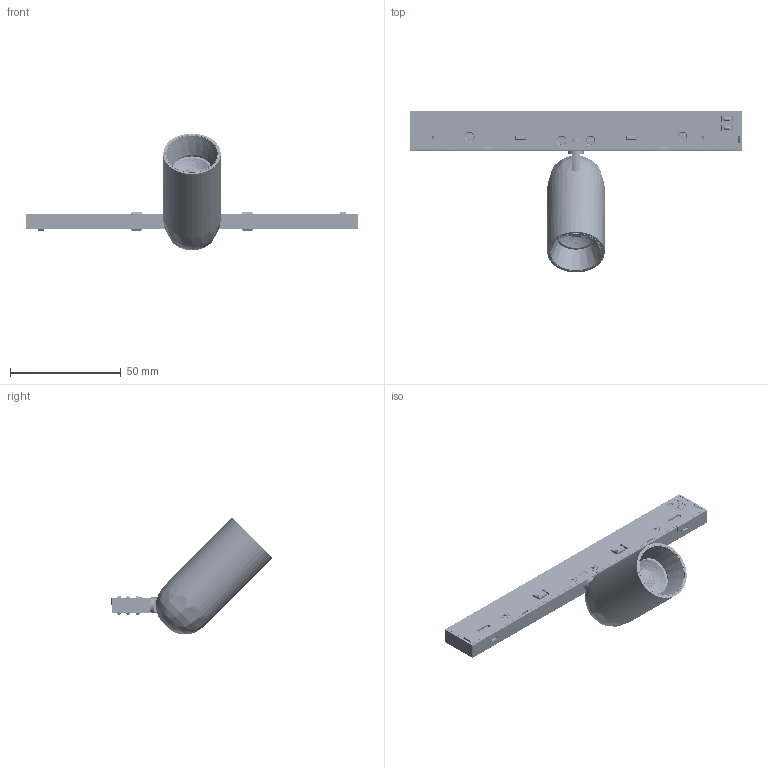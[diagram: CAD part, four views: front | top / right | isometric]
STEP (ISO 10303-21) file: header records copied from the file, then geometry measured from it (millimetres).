
FILE_DESCRIPTION (( 'STEP AP203' ), '1' );
FILE_NAME ('PK0003 Poke.STEP', '2025-08-02T06:42:37', ( '' ), ( '' ), 'SwSTEP 2.0', 'SolidWorks 2020', '' );
FILE_SCHEMA (( 'CONFIG_CONTROL_DESIGN' ));
Length unit declared in the file: millimetre
Products named in the file (17): M2_5_5-01.stp; WT-F20H-C135_A0_3.stp; KC-0006-101_ASM.stp; KC-0006-0171.stp; KC-0006-0301.stp; BXRH-30G0400-C-83.stp; M2_5-01.stp; KC-0006-0169.stp; KC-0006-0178.stp; WT-2010-24COBL4-Y1-QR_3.stp; KC-0006-0302.stp; PK0003 Poke; 10_023A01000_20_ASM.stp; KC-0006-0004.stp; KC-0006-0177.stp; KC-0006-0303.stp; KC-0006-0223.stp
Assembly tree (28 placements, depth 3):
  PK0003 Poke
    KC-0006-101_ASM.stp
      KC-0006-0301.stp
      KC-0006-0303.stp  x2
      KC-0006-0302.stp
      KC-0006-0004.stp  x4
      M2_5-01.stp  x4
    10_023A01000_20_ASM.stp
      WT-F20H-C135_A0_3.stp
      WT-2010-24COBL4-Y1-QR_3.stp
      BXRH-30G0400-C-83.stp
      M2_5-01.stp  x2
    KC-0006-0178.stp
    KC-0006-0169.stp
    KC-0006-0177.stp
    M2_5_5-01.stp  x2
    KC-0006-0171.stp
    M2_5-01.stp  x2
    KC-0006-0223.stp
Bounding box: 150 x 72.8 x 52.83 mm (x, y, z)
Volume: 39713.3 mm3; surface area: 40471 mm2
Topology: 25 solids, 33 shells, 8113 faces, 24512 edges, 13719 vertices
Faces by surface type: bspline 3288, sphere 2827, plane 1059, cylinder 620, cone 285, torus 34
Entity records: 304466 total; most frequent: CARTESIAN_POINT 163850, ORIENTED_EDGE 37984, EDGE_CURVE 18992, DIRECTION 16432, VERTEX_POINT 11531, B_SPLINE_CURVE_WITH_KNOTS 10803, EDGE_LOOP 7637, FACE_OUTER_BOUND 7514
